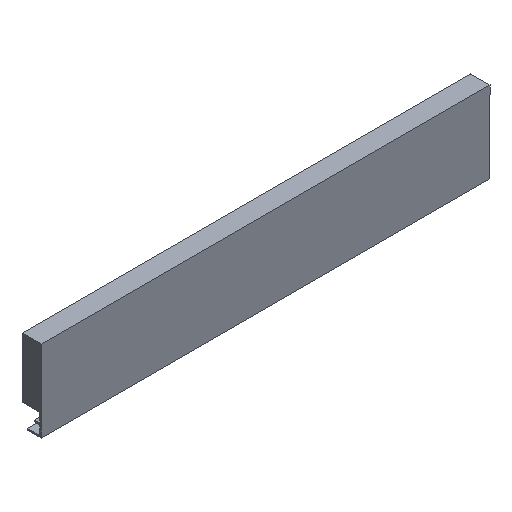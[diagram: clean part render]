
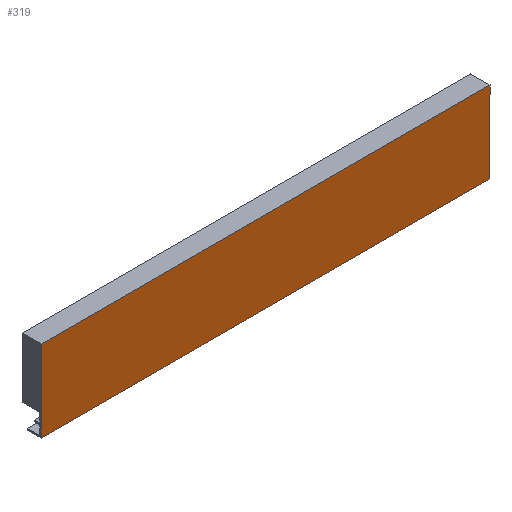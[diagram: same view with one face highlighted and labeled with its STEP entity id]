
A CAD part, isometric view. The second image highlights one B-rep face of the part: STEP entity #319.
In plain terms, the highlighted planar face has unit normal (0, -1, 0).
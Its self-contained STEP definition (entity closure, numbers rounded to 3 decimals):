
#1 = CARTESIAN_POINT ( 'NONE',  ( -186.5, -5.5, 49.7 ) ) ;
#8 = CARTESIAN_POINT ( 'NONE',  ( 186.5, -5.5, -17.9 ) ) ;
#11 = VERTEX_POINT ( 'NONE', #8 ) ;
#13 = VERTEX_POINT ( 'NONE', #1 ) ;
#14 = VERTEX_POINT ( 'NONE', #39 ) ;
#38 = VERTEX_POINT ( 'NONE', #67 ) ;
#39 = CARTESIAN_POINT ( 'NONE',  ( 186.5, -5.5, 49.7 ) ) ;
#67 = CARTESIAN_POINT ( 'NONE',  ( -186.5, -5.5, -17.9 ) ) ;
#103 = CARTESIAN_POINT ( 'NONE',  ( -186.5, -5.5, -17.9 ) ) ;
#105 = DIRECTION ( 'NONE',  ( 0., 0., 1. ) ) ;
#109 = CARTESIAN_POINT ( 'NONE',  ( -186.5, -5.5, -17.9 ) ) ;
#110 = DIRECTION ( 'NONE',  ( 1., 0., 0. ) ) ;
#125 = CARTESIAN_POINT ( 'NONE',  ( 186.5, -5.5, -17.9 ) ) ;
#126 = DIRECTION ( 'NONE',  ( 0., 0., 1. ) ) ;
#141 = CARTESIAN_POINT ( 'NONE',  ( -186.5, -5.5, 49.7 ) ) ;
#142 = DIRECTION ( 'NONE',  ( 1., 0., 0. ) ) ;
#180 = PLANE ( 'NONE',  #273 ) ;
#184 = CARTESIAN_POINT ( 'NONE',  ( -186.5, -5.5, -17.9 ) ) ;
#190 = DIRECTION ( 'NONE',  ( 0., 1., 0. ) ) ;
#191 = DIRECTION ( 'NONE',  ( 0., 0., -1. ) ) ;
#260 = EDGE_CURVE ( 'NONE', #38, #13, #482, .T. ) ;
#262 = EDGE_CURVE ( 'NONE', #38, #11, #467, .T. ) ;
#273 = AXIS2_PLACEMENT_3D ( 'NONE', #184, #190, #191 ) ;
#287 = EDGE_CURVE ( 'NONE', #11, #14, #496, .T. ) ;
#295 = EDGE_CURVE ( 'NONE', #13, #14, #512, .T. ) ;
#319 = ADVANCED_FACE ( 'NONE', ( #332 ), #180, .F. ) ;
#332 = FACE_OUTER_BOUND ( 'NONE', #410, .T. ) ;
#333 = VECTOR ( 'NONE', #110, 1000. ) ;
#410 = EDGE_LOOP ( 'NONE', ( #442, #443, #444, #435 ) ) ;
#435 = ORIENTED_EDGE ( 'NONE', *, *, #262, .T. ) ;
#442 = ORIENTED_EDGE ( 'NONE', *, *, #287, .T. ) ;
#443 = ORIENTED_EDGE ( 'NONE', *, *, #295, .F. ) ;
#444 = ORIENTED_EDGE ( 'NONE', *, *, #260, .F. ) ;
#467 = LINE ( 'NONE', #109, #333 ) ;
#471 = VECTOR ( 'NONE', #105, 1000. ) ;
#482 = LINE ( 'NONE', #103, #471 ) ;
#496 = LINE ( 'NONE', #125, #497 ) ;
#497 = VECTOR ( 'NONE', #126, 1000. ) ;
#512 = LINE ( 'NONE', #141, #513 ) ;
#513 = VECTOR ( 'NONE', #142, 1000. ) ;
